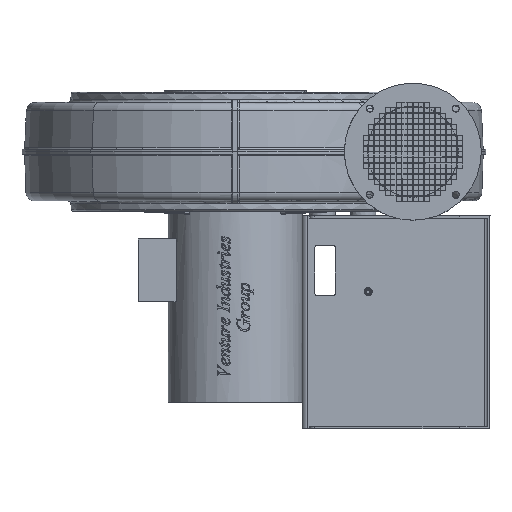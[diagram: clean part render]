
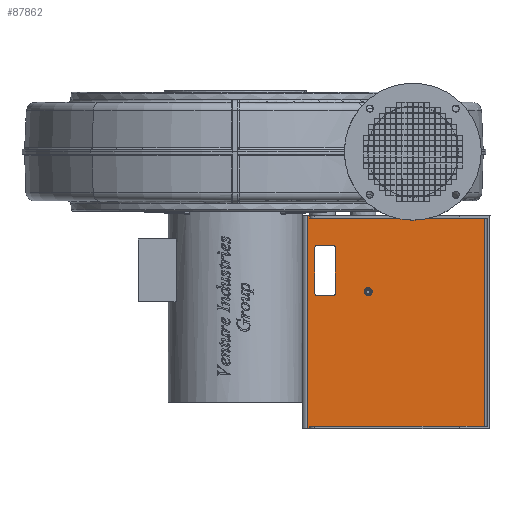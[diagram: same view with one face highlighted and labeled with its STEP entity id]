
A CAD part, left-side view. The second image highlights one B-rep face of the part: STEP entity #87862.
In plain terms, the highlighted planar face has unit normal (-1, 0, 0).
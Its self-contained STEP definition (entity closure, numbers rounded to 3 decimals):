
#1544=FACE_BOUND('',#33362,.T.);
#1545=FACE_BOUND('',#33363,.T.);
#4487=PLANE('',#92135);
#13586=LINE('',#150890,#22989);
#13598=LINE('',#150916,#23001);
#13602=LINE('',#150933,#23005);
#13604=LINE('',#150940,#23007);
#13605=LINE('',#150941,#23008);
#13606=LINE('',#150943,#23009);
#13607=LINE('',#150945,#23010);
#13608=LINE('',#150946,#23011);
#13609=LINE('',#150948,#23012);
#13610=LINE('',#150949,#23013);
#13611=LINE('',#150956,#23014);
#13612=LINE('',#150960,#23015);
#13613=LINE('',#150964,#23016);
#13614=LINE('',#150967,#23017);
#22989=VECTOR('',#109243,10.);
#23001=VECTOR('',#109259,10.);
#23005=VECTOR('',#109275,10.);
#23007=VECTOR('',#109281,10.);
#23008=VECTOR('',#109282,10.);
#23009=VECTOR('',#109283,10.);
#23010=VECTOR('',#109284,10.);
#23011=VECTOR('',#109285,10.);
#23012=VECTOR('',#109286,10.);
#23013=VECTOR('',#109287,10.);
#23014=VECTOR('',#109292,10.);
#23015=VECTOR('',#109295,10.);
#23016=VECTOR('',#109298,10.);
#23017=VECTOR('',#109301,10.);
#27939=FACE_OUTER_BOUND('',#33361,.T.);
#33361=EDGE_LOOP('',(#77602,#77603,#77604,#77605,#77606,#77607,#77608,#77609,
#77610,#77611));
#33362=EDGE_LOOP('',(#77612));
#33363=EDGE_LOOP('',(#77613,#77614,#77615,#77616,#77617,#77618,#77619,#77620));
#34680=CIRCLE('',#92136,5.65);
#34681=CIRCLE('',#92137,5.);
#34682=CIRCLE('',#92138,5.);
#34683=CIRCLE('',#92139,5.);
#34684=CIRCLE('',#92140,5.);
#43602=VERTEX_POINT('',#150883);
#43605=VERTEX_POINT('',#150888);
#43614=VERTEX_POINT('',#150909);
#43617=VERTEX_POINT('',#150914);
#43623=VERTEX_POINT('',#150930);
#43626=VERTEX_POINT('',#150938);
#43627=VERTEX_POINT('',#150939);
#43628=VERTEX_POINT('',#150942);
#43629=VERTEX_POINT('',#150944);
#43630=VERTEX_POINT('',#150947);
#43631=VERTEX_POINT('',#150950);
#43632=VERTEX_POINT('',#150952);
#43633=VERTEX_POINT('',#150953);
#43634=VERTEX_POINT('',#150955);
#43635=VERTEX_POINT('',#150957);
#43636=VERTEX_POINT('',#150959);
#43637=VERTEX_POINT('',#150961);
#43638=VERTEX_POINT('',#150963);
#43639=VERTEX_POINT('',#150965);
#55105=EDGE_CURVE('',#43602,#43605,#13586,.T.);
#55117=EDGE_CURVE('',#43617,#43614,#13598,.T.);
#55125=EDGE_CURVE('',#43623,#43617,#13602,.T.);
#55128=EDGE_CURVE('',#43626,#43627,#13604,.T.);
#55129=EDGE_CURVE('',#43627,#43602,#13605,.T.);
#55130=EDGE_CURVE('',#43605,#43628,#13606,.T.);
#55131=EDGE_CURVE('',#43628,#43629,#13607,.T.);
#55132=EDGE_CURVE('',#43629,#43614,#13608,.T.);
#55133=EDGE_CURVE('',#43630,#43623,#13609,.T.);
#55134=EDGE_CURVE('',#43630,#43626,#13610,.T.);
#55135=EDGE_CURVE('',#43631,#43631,#34680,.T.);
#55136=EDGE_CURVE('',#43632,#43633,#34681,.T.);
#55137=EDGE_CURVE('',#43633,#43634,#13611,.T.);
#55138=EDGE_CURVE('',#43634,#43635,#34682,.T.);
#55139=EDGE_CURVE('',#43635,#43636,#13612,.T.);
#55140=EDGE_CURVE('',#43636,#43637,#34683,.T.);
#55141=EDGE_CURVE('',#43637,#43638,#13613,.T.);
#55142=EDGE_CURVE('',#43638,#43639,#34684,.T.);
#55143=EDGE_CURVE('',#43639,#43632,#13614,.T.);
#77602=ORIENTED_EDGE('',*,*,#55128,.T.);
#77603=ORIENTED_EDGE('',*,*,#55129,.T.);
#77604=ORIENTED_EDGE('',*,*,#55105,.T.);
#77605=ORIENTED_EDGE('',*,*,#55130,.T.);
#77606=ORIENTED_EDGE('',*,*,#55131,.T.);
#77607=ORIENTED_EDGE('',*,*,#55132,.T.);
#77608=ORIENTED_EDGE('',*,*,#55117,.F.);
#77609=ORIENTED_EDGE('',*,*,#55125,.F.);
#77610=ORIENTED_EDGE('',*,*,#55133,.F.);
#77611=ORIENTED_EDGE('',*,*,#55134,.T.);
#77612=ORIENTED_EDGE('',*,*,#55135,.T.);
#77613=ORIENTED_EDGE('',*,*,#55136,.T.);
#77614=ORIENTED_EDGE('',*,*,#55137,.T.);
#77615=ORIENTED_EDGE('',*,*,#55138,.T.);
#77616=ORIENTED_EDGE('',*,*,#55139,.T.);
#77617=ORIENTED_EDGE('',*,*,#55140,.T.);
#77618=ORIENTED_EDGE('',*,*,#55141,.T.);
#77619=ORIENTED_EDGE('',*,*,#55142,.T.);
#77620=ORIENTED_EDGE('',*,*,#55143,.T.);
#87862=ADVANCED_FACE('',(#27939,#1544,#1545),#4487,.T.);
#92135=AXIS2_PLACEMENT_3D('',#150937,#109279,#109280);
#92136=AXIS2_PLACEMENT_3D('',#150951,#109288,#109289);
#92137=AXIS2_PLACEMENT_3D('',#150954,#109290,#109291);
#92138=AXIS2_PLACEMENT_3D('',#150958,#109293,#109294);
#92139=AXIS2_PLACEMENT_3D('',#150962,#109296,#109297);
#92140=AXIS2_PLACEMENT_3D('',#150966,#109299,#109300);
#109243=DIRECTION('',(0.,0.,1.));
#109259=DIRECTION('',(0.,-1.,0.));
#109275=DIRECTION('',(0.,0.,1.));
#109279=DIRECTION('center_axis',(-1.,0.,0.));
#109280=DIRECTION('ref_axis',(0.,0.,
1.));
#109281=DIRECTION('',(0.,-1.,0.));
#109282=DIRECTION('',(0.,-1.,0.));
#109283=DIRECTION('',(0.,1.,0.));
#109284=DIRECTION('',(0.,1.,0.));
#109285=DIRECTION('',(0.,0.,1.));
#109286=DIRECTION('',(0.,1.,0.));
#109287=DIRECTION('',(0.,0.,1.));
#109288=DIRECTION('center_axis',(1.,0.,0.));
#109289=DIRECTION('ref_axis',(0.,0.889,-0.458));
#109290=DIRECTION('center_axis',(1.,0.,0.));
#109291=DIRECTION('ref_axis',(0.,-1.,0.));
#109292=DIRECTION('',(0.,-1.,0.));
#109293=DIRECTION('center_axis',(1.,0.,0.));
#109294=DIRECTION('ref_axis',(0.,0.,
-1.));
#109295=DIRECTION('',(0.,0.,-1.));
#109296=DIRECTION('center_axis',(1.,0.,0.));
#109297=DIRECTION('ref_axis',(0.,1.,0.));
#109298=DIRECTION('',(0.,1.,0.));
#109299=DIRECTION('center_axis',(1.,0.,0.));
#109300=DIRECTION('ref_axis',(0.,0.,
1.));
#109301=DIRECTION('',(0.,0.,1.));
#150883=CARTESIAN_POINT('',(-175.,-492.,-541.));
#150888=CARTESIAN_POINT('',(-175.,-492.,-131.));
#150890=CARTESIAN_POINT('',(-175.,-492.,-336.));
#150909=CARTESIAN_POINT('',(-175.,-146.5,-126.));
#150914=CARTESIAN_POINT('',(-175.,-142.,-126.));
#150916=CARTESIAN_POINT('',(-175.,-548.31,-126.));
#150930=CARTESIAN_POINT('',(-175.,-142.,-546.));
#150933=CARTESIAN_POINT('',(-175.,-142.,-336.));
#150937=CARTESIAN_POINT('Origin',(-175.,34.31,-336.));
#150938=CARTESIAN_POINT('',(-175.,-146.5,-541.));
#150939=CARTESIAN_POINT('',(-175.,-147.,-541.));
#150940=CARTESIAN_POINT('',(-175.,-143.241,-541.));
#150941=CARTESIAN_POINT('',(-175.,-143.241,-541.));
#150942=CARTESIAN_POINT('',(-175.,-147.,-131.));
#150943=CARTESIAN_POINT('',(-175.,-152.589,-131.));
#150944=CARTESIAN_POINT('',(-175.,-146.5,-131.));
#150945=CARTESIAN_POINT('',(-175.,-152.589,-131.));
#150946=CARTESIAN_POINT('',(-175.,-146.5,-231.));
#150947=CARTESIAN_POINT('',(-175.,-146.5,-546.));
#150948=CARTESIAN_POINT('',(-175.,571.929,-546.));
#150949=CARTESIAN_POINT('',(-175.,-146.5,-441.));
#150950=CARTESIAN_POINT('',(-175.,-256.977,-278.586));
#150951=CARTESIAN_POINT('Origin',(-175.,-262.,-276.));
#150952=CARTESIAN_POINT('',(-175.,-157.,-189.));
#150953=CARTESIAN_POINT('',(-175.,-162.,-184.));
#150954=CARTESIAN_POINT('Origin',(-175.,-162.,-189.));
#150955=CARTESIAN_POINT('',(-175.,-192.,-184.));
#150956=CARTESIAN_POINT('',(-175.,-63.845,-184.));
#150957=CARTESIAN_POINT('',(-175.,-197.,-189.));
#150958=CARTESIAN_POINT('Origin',(-175.,-192.,-189.));
#150959=CARTESIAN_POINT('',(-175.,-197.,-279.));
#150960=CARTESIAN_POINT('',(-175.,-197.,-262.5));
#150961=CARTESIAN_POINT('',(-175.,-192.,-284.));
#150962=CARTESIAN_POINT('Origin',(-175.,-192.,-279.));
#150963=CARTESIAN_POINT('',(-175.,-162.,-284.));
#150964=CARTESIAN_POINT('',(-175.,-78.845,-284.));
#150965=CARTESIAN_POINT('',(-175.,-157.,-279.));
#150966=CARTESIAN_POINT('Origin',(-175.,-162.,-279.));
#150967=CARTESIAN_POINT('',(-175.,-157.,-307.5));
